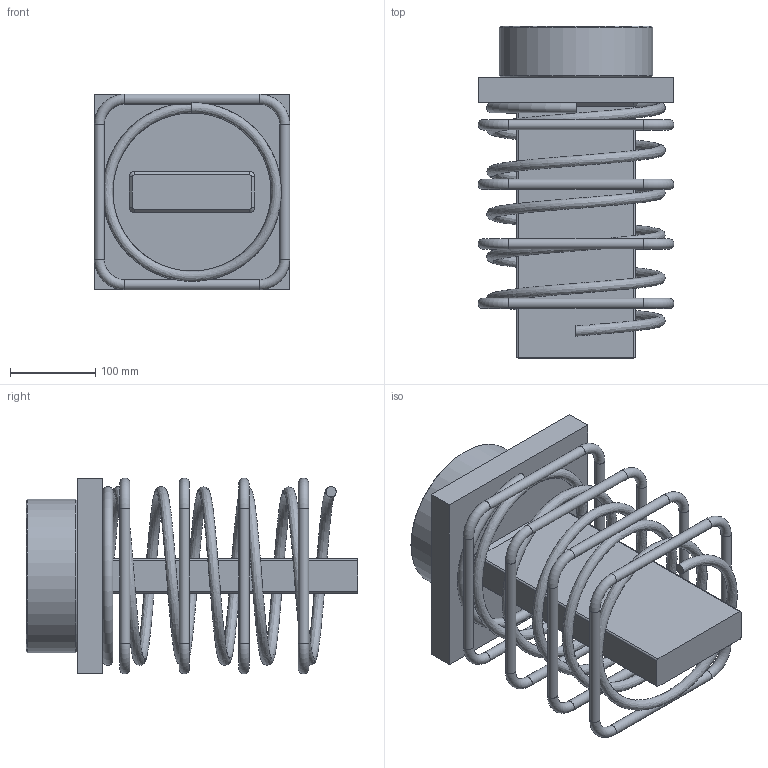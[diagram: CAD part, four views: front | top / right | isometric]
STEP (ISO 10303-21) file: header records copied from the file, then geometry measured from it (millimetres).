
FILE_DESCRIPTION(/* description */ (''),/* implementation_level */ '2;1');
FILE_NAME(/* name */ 'Z:\04 Publications\05 Give-out\BBR\6_3D_Models\BBR VT CONA CMB\01 x 406\BBR VT CONA CMB SP_01 x 406_Anchorage A Assembly.stp',/* time_stamp */ '2017-05-09T11:52:39+02:00',/* author */ ('IP'),/* organization */ (''),/* preprocessor_version */ 'ST-DEVELOPER v16.1',/* originating_system */ 'Autodesk Inventor 2016',/* authorisation */ '');
FILE_SCHEMA (('AUTOMOTIVE_DESIGN { 1 0 10303 214 3 1 1 }'));
Length unit declared in the file: millimetre
Products named in the file (1): BBR VT CONA CMB SP_01 x 406_Anchorage A Assembly
Bounding box: 230 x 390.1 x 230 mm (x, y, z)
Volume: 5587464 mm3; surface area: 538047 mm2
Topology: 2 solids, 2 shells, 699 faces, 1862 edges, 1229 vertices
Faces by surface type: plane 346, bspline 309, cylinder 21, torus 17, cone 6
Full cylindrical faces by diameter (mm): 12 x16, 180 x1
Entity records: 26411 total; most frequent: CARTESIAN_POINT 10484, ORIENTED_EDGE 3656, DIRECTION 2042, EDGE_CURVE 1827, VERTEX_POINT 1229, LINE 1152, VECTOR 1152, EDGE_LOOP 805
